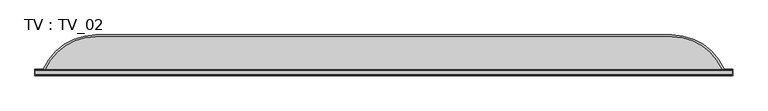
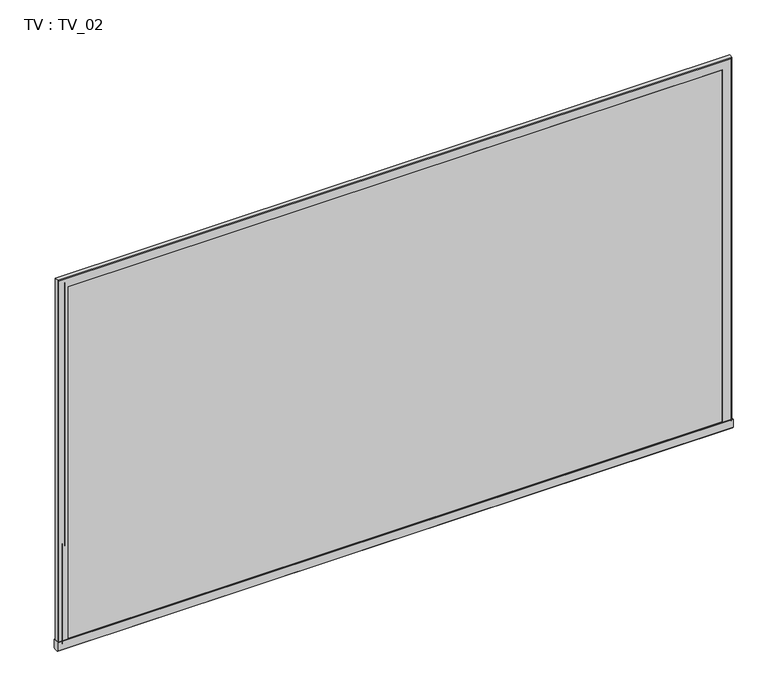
"""IFC4 building model written with IfcOpenShell, lengths in millimetres: proxy geometry, TV : TV_02."""

from ifc_helpers import new_model, si_unit, point, frame, frame_2d, origin, place, context, project, spatial, polyline, circle_curve, ellipse_curve, trimmed, segment, composite_curve, outline, extrude, faceted_brep, source, transform, mapped, element, save
from ifc_brep_helpers import plane_surface, cylinder_surface, advanced_brep


def tv_tv_02_973a8bbb(model_context):
    return source(origin(), model_context, "Body", "SolidModel", [
        extrude(outline(polyline([(599.500157, -68.8122892), (599.500157, -69.8298125), (-599.500157, -69.8298125), (-599.500157, -68.8122892), (599.500157, -68.8122892)])), frame((0.0, 0.0, 767.5001526), z_axis=(0.0, 0.0, 1.0), x_axis=(1.0, 0.0, 0.0)), (0.0, 0.0, 1.0), 681.7291244),
        faceted_brep([(-615.000002, -69.8298125, 765.0), (-615.000002, -62.82908, 765.0), (-613.5001392, -61.3294461, 765.0), (-597.6219429, -61.3294455, 765.0), (-596.9999705, -61.9514177, 765.0), (-596.9999705, -70.7074748, 765.0), (-597.6219412, -71.3294455, 765.0), (-613.5001392, -71.3294461, 765.0), (-615.000002, -69.8298125, 1464.9999232), (-615.000002, -62.82908, 1464.9999232), (-613.5001392, -61.3294461, 1463.5000604), (613.5001352, -61.3293968, 1463.5000604), (613.5001352, -61.3293968, 765.0), (597.6219388, -61.3293975, 765.0), (597.6219388, -61.3293975, 1447.621864), (-597.6219429, -61.3294455, 1447.621864), (-596.9999705, -61.9514177, 1446.9998916), (-596.9999705, -70.7074748, 1446.9998916), (-597.6219412, -71.3294455, 1447.6218624), (597.6219372, -71.3293975, 1447.6218624), (597.6219372, -71.3293975, 765.0), (613.5001352, -71.3293968, 765.0), (613.5001352, -71.3293968, 1463.5000604), (-613.5001392, -71.3294461, 1463.5000604), (614.999998, -69.8298125, 1464.9999232), (614.999998, -62.82908, 1464.9999232), (596.9999665, -61.9514177, 1446.9998916), (596.9999665, -70.7074748, 1446.9998916), (614.999998, -69.8298125, 765.0), (596.9999665, -70.7074748, 765.0), (596.9999665, -61.9514177, 765.0), (614.999998, -62.82908, 765.0)], [[[0, 1, 2, 3, 4, 5, 6, 7]], [[1, 0, 8, 9]], [[2, 1, 9, 10]], [[3, 2, 10, 11, 12, 13, 14, 15]], [[4, 3, 15, 16]], [[5, 4, 16, 17]], [[6, 5, 17, 18]], [[7, 6, 18, 19, 20, 21, 22, 23]], [[0, 7, 23, 8]], [[9, 8, 24, 25]], [[10, 9, 25, 11]], [[16, 15, 14, 26]], [[17, 16, 26, 27]], [[18, 17, 27, 19]], [[8, 23, 22, 24]], [[28, 21, 20, 29, 30, 13, 12, 31]], [[25, 24, 28, 31]], [[11, 25, 31, 12]], [[26, 14, 13, 30]], [[27, 26, 30, 29]], [[19, 27, 29, 20]], [[24, 22, 21, 28]]]),
        extrude(outline(polyline([(-61.9971347, 750.0), (-70.6610751, 750.0), (-72.3291659, 751.668396), (-72.3291659, 767.4054483), (-71.7344311, 768.0001831), (-60.9237787, 768.0001831), (-60.328989, 767.4053934), (-60.328989, 751.6684508), (-61.9971347, 750.0)])), frame((-616.000157, 0.0, 0.0), z_axis=(1.0, 0.0, 0.0), x_axis=(0.0, 1.0, 0.0)), (0.0, 0.0, 1.0), 1231.9998333),
        advanced_brep(
        [(508.6825148, -3.584679, 940.5046082), (596.6681782, -60.3290939, 940.5046082), (-596.8363266, -60.3290939, 940.5046082), (-508.8506632, -3.584679, 940.5046082), (508.6825148, -3.584679, 1359.3709837), (596.6681782, -60.3290939, 1447.3566471), (-596.8363266, -60.3290939, 1447.3566471), (-508.8506632, -3.584679, 1359.3709837)],
        [
            (0, 1, circle_curve(frame((509.3976775, -99.0615421, 940.5046082), z_axis=(0.0, 0.0, -1.0), x_axis=(-1.0, 0.0, 0.0)), 95.4795415)),
            (1, 2),
            (2, 3, circle_curve(frame((-509.5658259, -99.0615421, 940.5046082), z_axis=(0.0, 0.0, -1.0), x_axis=(1.0, 0.0, 0.0)), 95.4795415)),
            (3, 0),
            (0, 4),
            (4, 5, ellipse_curve(frame((509.3976775, -99.0615421, 1360.0861464), z_axis=(0.7071067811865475, 0.0, -0.7071067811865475), x_axis=(-0.7071067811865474, 0.0, -0.7071067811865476)), 135.0284625, 95.4795415)),
            (5, 1),
            (5, 6),
            (6, 2),
            (6, 7, ellipse_curve(frame((-509.5658259, -99.0615421, 1360.0861464), z_axis=(-0.7071067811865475, 0.0, -0.7071067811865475), x_axis=(-0.7071067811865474, 0.0, 0.7071067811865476)), 135.0284625, 95.4795415)),
            (7, 3),
            (4, 7),
        ],
        [
            plane_surface(frame((508.6825148, 0.0, 940.5046082), z_axis=(0.0, 0.0, -1.0), x_axis=(0.0, -1.0, 0.0))),
            cylinder_surface(frame((509.3976775, -99.0615421, 940.5046082), z_axis=(0.0, 0.0, -1.0), x_axis=(-1.0, 0.0, 0.0)), 95.4795415),
            plane_surface(frame((596.6681782, -60.3290939, 940.5046082), z_axis=(0.0, -1.0, 0.0), x_axis=(0.0, 0.0, 1.0))),
            cylinder_surface(frame((-509.5658259, -99.0615421, 1359.3709837), z_axis=(0.0, 0.0, 1.0), x_axis=(1.0, 0.0, 0.0)), 95.4795415),
            cylinder_surface(frame((508.6825148, -99.0615421, 1360.0861464), z_axis=(1.0, 0.0, 0.0), x_axis=(0.0, 0.0, -1.0)), 95.4795415),
            plane_surface(frame((-508.8506632, -3.584679, 1359.3709837), z_axis=(0.0, 1.0, 0.0), x_axis=(0.0, 0.0, 1.0))),
        ],
        [
            (0, [[1, 2, 3, 4]]),
            (1, [[-1, 5, 6, 7]]),
            (2, [[-2, -7, 8, 9]]),
            (3, [[-9, 10, 11, -3]]),
            (4, [[-6, 12, -10, -8]]),
            (5, [[-4, -11, -12, -5]]),
        ],
    ),
        extrude(outline(composite_curve([segment(polyline([(-508.8506632, 0.0), (508.8564355, 0.0)]), True, "CONTINUOUS"), segment(trimmed(circle_curve(frame_2d((508.8564355, -100.8954296)), 100.8954296), [point((508.8564355, 0.0))], [point((601.2374488, -60.328989))], False, "CARTESIAN"), True, "CONTINUOUS"), segment(polyline([(601.2374488, -60.328989), (-601.2372269, -60.328989)]), True, "CONTINUOUS"), segment(trimmed(circle_curve(frame_2d((-508.8506632, -100.903929)), 100.903929), [point((-601.2372269, -60.328989))], [point((-508.8506632, 0.0))], False, "CARTESIAN"), True, "CONTINUOUS")], self_intersect=False)), frame((0.0, 0.0, 753.8372803), z_axis=(0.0, 0.0, 1.0), x_axis=(1.0, 0.0, 0.0)), (0.0, 0.0, 1.0), 186.6673279),
    ])


if __name__ == "__main__":
    model = new_model("IFC4")
    model_context = context("Model", 3, world=origin())
    ifc_project = project(units=[si_unit("LENGTHUNIT", "METRE", prefix="MILLI")], contexts=[model_context])
    site = spatial("IfcSite", under=ifc_project)
    building = spatial("IfcBuilding", under=site)
    placement = place(None, origin())
    tv_tv_02_shape = tv_tv_02_973a8bbb(model_context)
    element("IfcBuildingElementProxy", 1, Name="TV : TV_02", ObjectType="TV : TV_02", at=placement, inside=building, context=model_context, shape_type="MappedRepresentation", body=[
        mapped(tv_tv_02_shape, transform((0.0, 0.0, 0.0), x_axis=(1.0, 0.0, 0.0), y_axis=(0.0, 1.0, 0.0), z_axis=(0.0, 0.0, 1.0))),
    ])
    save(model, "model.ifc")
